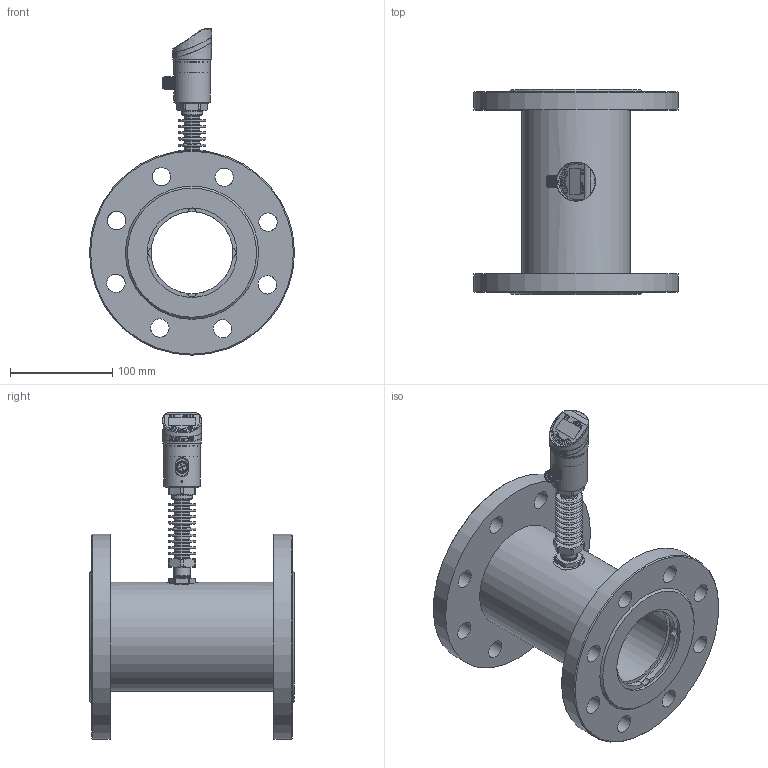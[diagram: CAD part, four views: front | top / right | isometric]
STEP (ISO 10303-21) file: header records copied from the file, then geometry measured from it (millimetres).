
FILE_DESCRIPTION( (''), '2;1');
FILE_NAME( 'QTKE_DN80_flange_high-temp.step', '2024-10-14T15:54:32+08:00', (''), (''), '', '', '');
FILE_SCHEMA (('AUTOMOTIVE_DESIGN { 1 0 10303 214 3 1 1 1 }'));
Length unit declared in the file: millimetre
Products named in the file (1): QTKE DN80_flange_high-temp
Bounding box: 200 x 200 x 318.5 mm (x, y, z)
Volume: 1540589.3 mm3; surface area: 280453.8 mm2
Topology: 5 solids, 5 shells, 1034 faces, 2655 edges, 1728 vertices
Faces by surface type: plane 415, cylinder 206, extrusion 160, cone 111, bspline 61, torus 60, sphere 21
Full cylindrical faces by diameter (mm): 1.689 x1, 2 x1, 2.7 x6, 3.5 x5, 12 x1, 13 x1, 15 x10, 15.9 x1, 16.5 x1, 18 x16, 20 x1, 23 x3, 26 x5, 31.7 x1, 32 x1, 34 x1, 34.2 x1, 35.5 x2, 80 x1, 86 x2, 87.347 x2, 106 x1, 200 x2
Entity records: 45376 total; most frequent: CARTESIAN_POINT 17532, ORIENTED_EDGE 4854, DIRECTION 4342, EDGE_CURVE 2427, VERTEX_POINT 1655, AXIS2_PLACEMENT_3D 1582, EDGE_LOOP 1328, VECTOR 1178
